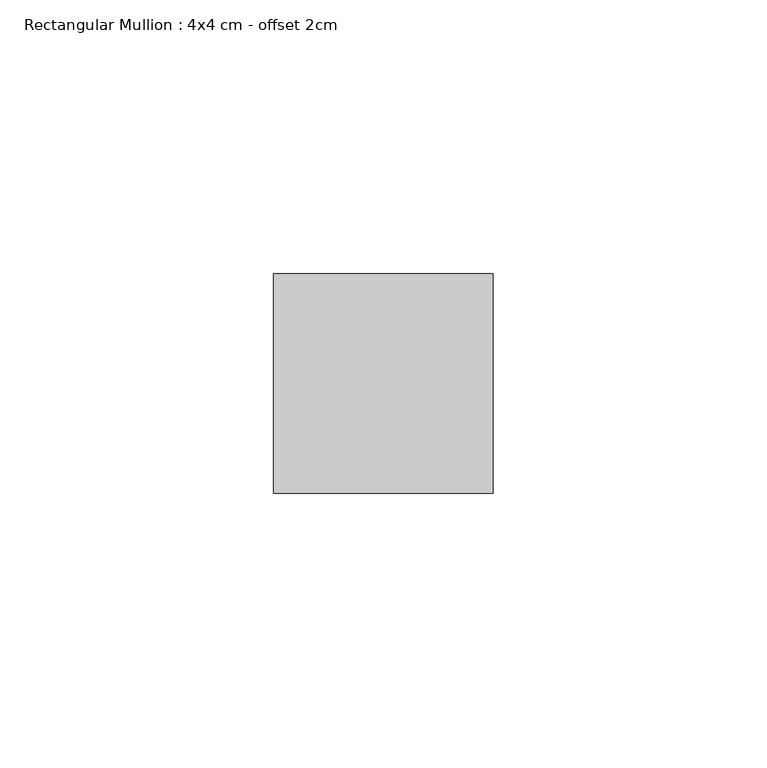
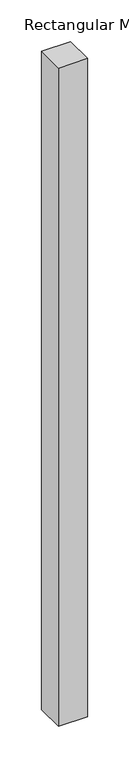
"""IFC4 building model written with IfcOpenShell, lengths in millimetres: member geometry, Rectangular Mullion : 4x4 cm - offset 2cm."""

from ifc_helpers import new_model, si_unit, frame, origin, place, context, project, spatial, polyline, outline, extrude, source, transform, mapped, element, save


def rectangular_mullion_4x4_cm_offset_2cm_abfb5f02(model_context):
    return source(origin(), model_context, "Body", "SweptSolid", [
        extrude(outline(polyline([(0.0, 0.0), (0.0, -40.0), (-40.0, -40.0), (-40.0, 0.0), (0.0, 0.0)])), frame((0.0, 0.0, -960.0), z_axis=(0.0, 0.0, 1.0), x_axis=(1.0, 0.0, 0.0)), (0.0, 0.0, 1.0), 960.0),
    ])


if __name__ == "__main__":
    model = new_model("IFC4")
    model_context = context("Model", 3, world=origin())
    ifc_project = project(units=[si_unit("LENGTHUNIT", "METRE", prefix="MILLI")], contexts=[model_context])
    site = spatial("IfcSite", under=ifc_project)
    building = spatial("IfcBuilding", under=site)
    placement = place(None, origin())
    rectangular_mullion_4x4_cm_offset_2cm_shape = rectangular_mullion_4x4_cm_offset_2cm_abfb5f02(model_context)
    element("IfcMember", 1, ObjectType="Rectangular Mullion : 4x4 cm - offset 2cm", at=placement, inside=building, context=model_context, shape_type="MappedRepresentation", body=[
        mapped(rectangular_mullion_4x4_cm_offset_2cm_shape, transform((0.0, 0.0, 0.0), x_axis=(1.0, 0.0, 0.0), y_axis=(0.0, 1.0, 0.0), z_axis=(0.0, 0.0, 1.0))),
    ])
    save(model, "model.ifc")
